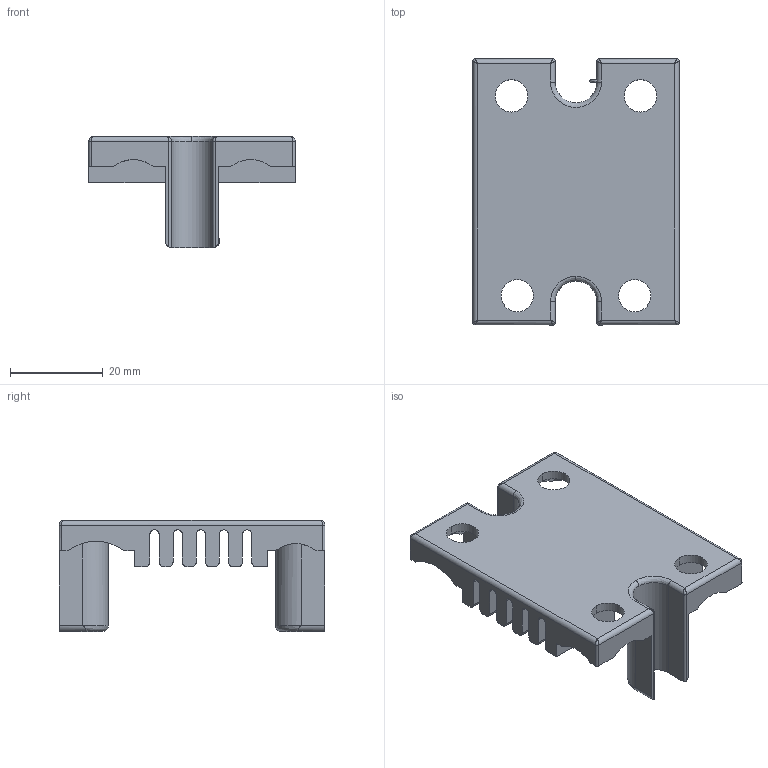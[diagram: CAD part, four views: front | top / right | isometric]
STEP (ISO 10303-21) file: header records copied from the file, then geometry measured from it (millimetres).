
FILE_DESCRIPTION (( 'STEP AP214' ), '1' );
FILE_NAME ('SP1PXN-Cover.STEP', '2024-04-17T08:46:59', ( '' ), ( '' ), 'SwSTEP 2.0', 'SolidWorks 2022', '' );
FILE_SCHEMA (( 'AUTOMOTIVE_DESIGN' ));
Length unit declared in the file: millimetre
Products named in the file (1): SP1PXN-Cover
Bounding box: 44.6 x 57.5 x 24 mm (x, y, z)
Volume: 8148.1 mm3; surface area: 10195.6 mm2
Topology: 1 solids, 1 shells, 193 faces, 539 edges, 339 vertices
Faces by surface type: plane 92, cylinder 83, bspline 18
Entity records: 7827 total; most frequent: CARTESIAN_POINT 3157, ORIENTED_EDGE 1058, DIRECTION 829, EDGE_CURVE 529, VERTEX_POINT 338, VECTOR 335, LINE 335, AXIS2_PLACEMENT_3D 247
